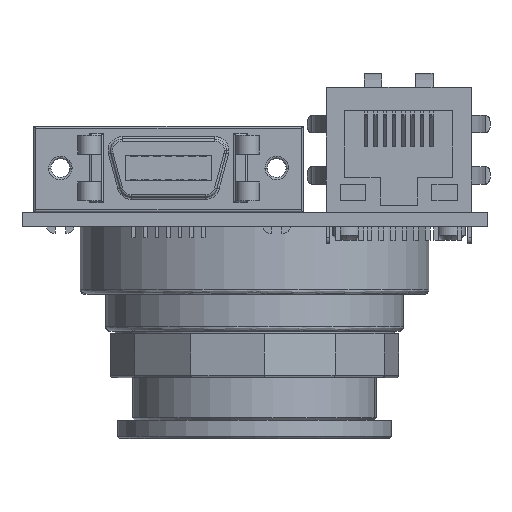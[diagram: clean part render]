
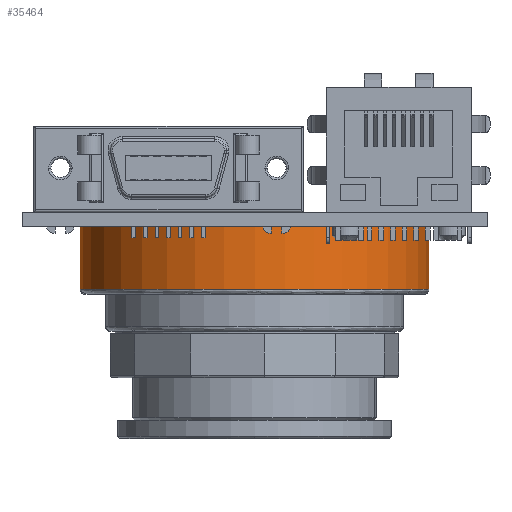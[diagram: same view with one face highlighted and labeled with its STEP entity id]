
A CAD part, front view. The second image highlights one B-rep face of the part: STEP entity #35464.
In plain terms, the highlighted cylindrical face has radius 19.05 mm (diameter 38.1 mm), a partial arc.
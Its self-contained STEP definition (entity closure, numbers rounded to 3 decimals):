
#404 = ORIENTED_EDGE ( 'NONE', *, *, #47587, .T. ) ;
#818 = AXIS2_PLACEMENT_3D ( 'NONE', #20126, #35315, #55941 ) ;
#7796 = LINE ( 'NONE', #58618, #35092 ) ;
#8280 = EDGE_CURVE ( 'NONE', #51470, #56716, #31336, .T. ) ;
#8387 = CARTESIAN_POINT ( 'NONE',  ( 19.05, 0., 6.858 ) ) ;
#9288 = AXIS2_PLACEMENT_3D ( 'NONE', #47046, #16335, #52094 ) ;
#16335 = DIRECTION ( 'NONE',  ( 0., 0., -1. ) ) ;
#18483 = CIRCLE ( 'NONE', #28382, 19.05 ) ;
#20126 = CARTESIAN_POINT ( 'NONE',  ( 0., 0., 11.43 ) ) ;
#22438 = VERTEX_POINT ( 'NONE', #39398 ) ;
#22700 = ORIENTED_EDGE ( 'NONE', *, *, #37532, .T. ) ;
#25293 = CARTESIAN_POINT ( 'NONE',  ( 0., 0., 0. ) ) ;
#26136 = EDGE_LOOP ( 'NONE', ( #49294, #404, #22700, #46132 ) ) ;
#27945 = DIRECTION ( 'NONE',  ( 0., 0., -1. ) ) ;
#28382 = AXIS2_PLACEMENT_3D ( 'NONE', #25293, #61134, #30449 ) ;
#30449 = DIRECTION ( 'NONE',  ( -1., 0., 0. ) ) ;
#31336 = LINE ( 'NONE', #38365, #43348 ) ;
#31509 = VERTEX_POINT ( 'NONE', #45464 ) ;
#35092 = VECTOR ( 'NONE', #27945, 1000. ) ;
#35315 = DIRECTION ( 'NONE',  ( 0., 0., -1. ) ) ;
#35464 = ADVANCED_FACE ( 'NONE', ( #59661 ), #41194, .T. ) ;
#37532 = EDGE_CURVE ( 'NONE', #22438, #31509, #7796, .T. ) ;
#38365 = CARTESIAN_POINT ( 'NONE',  ( 19.05, 0., 11.43 ) ) ;
#39372 = EDGE_CURVE ( 'NONE', #31509, #56716, #18483, .T. ) ;
#39398 = CARTESIAN_POINT ( 'NONE',  ( -19.05, 0., 6.858 ) ) ;
#41194 = CYLINDRICAL_SURFACE ( 'NONE', #818, 19.05 ) ;
#43348 = VECTOR ( 'NONE', #48650, 1000. ) ;
#45464 = CARTESIAN_POINT ( 'NONE',  ( -19.05, 0., 0. ) ) ;
#45749 = CIRCLE ( 'NONE', #9288, 19.05 ) ;
#46132 = ORIENTED_EDGE ( 'NONE', *, *, #39372, .T. ) ;
#47046 = CARTESIAN_POINT ( 'NONE',  ( 0., 0., 6.858 ) ) ;
#47115 = CARTESIAN_POINT ( 'NONE',  ( 19.05, 0., 0. ) ) ;
#47587 = EDGE_CURVE ( 'NONE', #51470, #22438, #45749, .T. ) ;
#48650 = DIRECTION ( 'NONE',  ( 0., 0., -1. ) ) ;
#49294 = ORIENTED_EDGE ( 'NONE', *, *, #8280, .F. ) ;
#51470 = VERTEX_POINT ( 'NONE', #8387 ) ;
#52094 = DIRECTION ( 'NONE',  ( -1., 0., 0. ) ) ;
#55941 = DIRECTION ( 'NONE',  ( -1., 0., 0. ) ) ;
#56716 = VERTEX_POINT ( 'NONE', #47115 ) ;
#58618 = CARTESIAN_POINT ( 'NONE',  ( -19.05, 0., 11.43 ) ) ;
#59661 = FACE_OUTER_BOUND ( 'NONE', #26136, .T. ) ;
#61134 = DIRECTION ( 'NONE',  ( 0., 0., 1. ) ) ;
